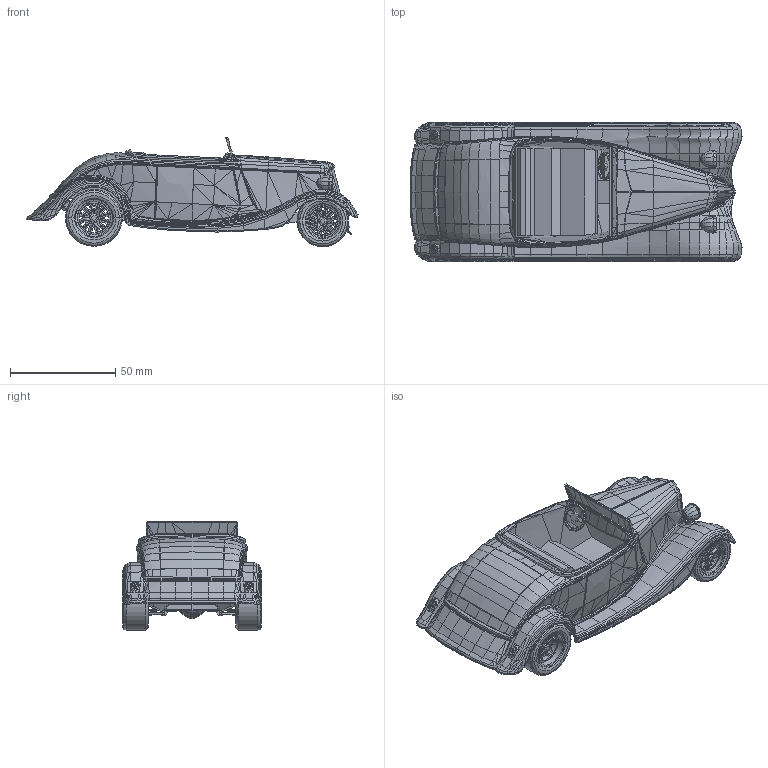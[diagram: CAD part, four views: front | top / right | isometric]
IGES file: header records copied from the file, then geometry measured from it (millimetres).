
Start section: SolidWorks IGES file using analytic representation for surfaces
Global section: file name: C:\Users\Zare\Documents\My Drawings\MILAN JANKOVIC\3d automobili\old car 1.IGS; native system: SolidWorks 2012; preprocessor: SolidWorks 2012; author: Zare; date: 120827.151337; units: millimetre
Bounding box: 157.53 x 66.07 x 51.98 mm (x, y, z)
Surface area: 46229 mm2 (no closed solid volume)
Topology: 0 solids, 0 shells, 4552 faces, 72256 edges, 108314 vertices
Faces by surface type: bspline 4464, revolution 88
